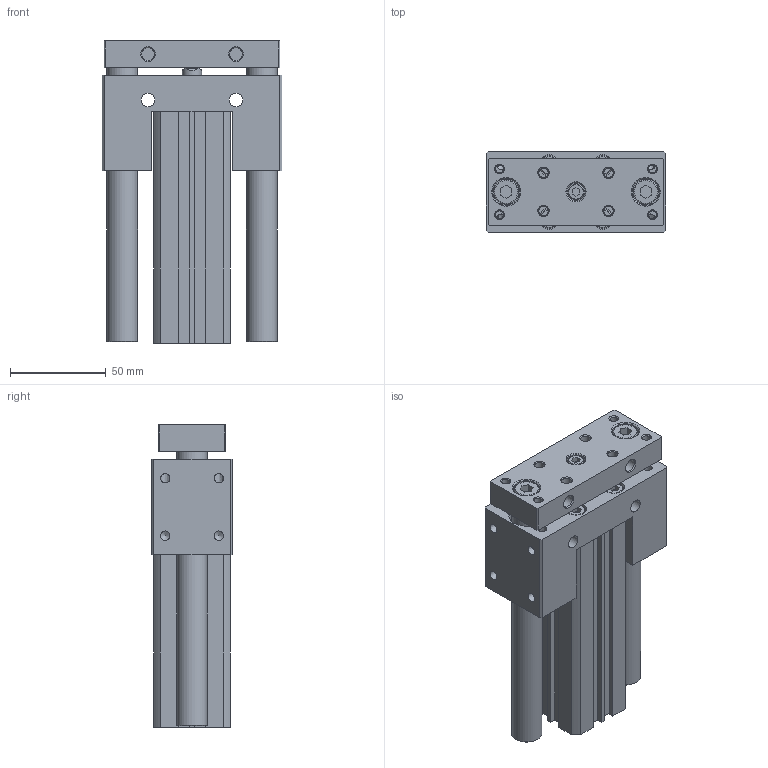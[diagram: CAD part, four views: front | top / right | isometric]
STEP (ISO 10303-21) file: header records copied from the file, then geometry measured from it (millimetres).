
FILE_DESCRIPTION((''),'2;1');
FILE_NAME('I:\3D電子目錄\氣缸\JCB\JCB\JCB25-S\JCB25x90-S.stp','2007-08-21T19:28:09',('Administrator'),(''),'Autodesk Inventor 11','Autodesk Inventor 11','');
FILE_SCHEMA(('AUTOMOTIVE_DESIGN { 1 0 10303 214 1 1 1 1 }'));
Length unit declared in the file: millimetre
Products named in the file (1): JCB25
Bounding box: 94 x 42 x 158.2 mm (x, y, z)
Volume: 365636.9 mm3; surface area: 100284 mm2
Topology: 5 solids, 5 shells, 323 faces, 740 edges, 483 vertices
Faces by surface type: plane 172, bspline 61, cylinder 47, cone 35, torus 8
Full cylindrical faces by diameter (mm): 1.5 x2, 4.917 x4, 5.1 x4, 6.647 x2, 8 x8, 8.5 x1, 10 x5, 11 x1, 13 x2, 16 x2, 17 x2, 18 x2, 28 x4, 29.4 x2
Entity records: 8980 total; most frequent: CARTESIAN_POINT 2309, DIRECTION 1332, ORIENTED_EDGE 1160, EDGE_CURVE 580, EDGE_LOOP 544, AXIS2_PLACEMENT_3D 493, VERTEX_POINT 454, VECTOR 346
